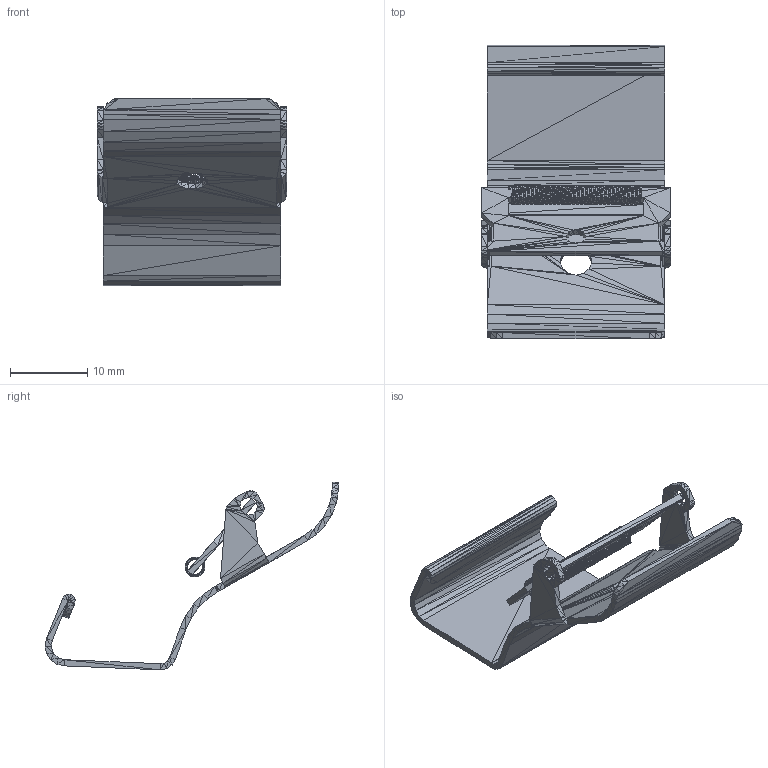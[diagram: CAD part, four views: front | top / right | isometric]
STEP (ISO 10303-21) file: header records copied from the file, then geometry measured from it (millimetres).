
FILE_DESCRIPTION((''),'2;1');
FILE_NAME('051262', '2026-02-17T11:56:44', (''), (''), 'ImageToStl.com STEP Converter','', '');
FILE_SCHEMA(('AUTOMOTIVE_DESIGN_CC2'));
Length unit declared in the file: metre
Products named in the file (1): product0
Bounding box: 24.6 x 38.11 x 24.35 mm (x, y, z)
Surface area: 3886.5 mm2 (no closed solid volume)
Topology: 0 solids, 23910 shells, 23910 faces, 71730 edges, 11953 vertices
Faces by surface type: plane 23910
Entity records: 549954 total; most frequent: DIRECTION 119552, ORIENTED_EDGE 71730, EDGE_CURVE 71730, LINE 71730, VECTOR 71730, AXIS2_PLACEMENT_3D 23911, FACE_SURFACE 23910, PLANE 23910
